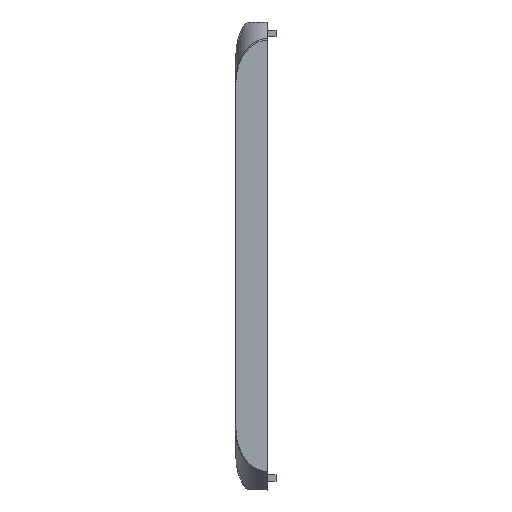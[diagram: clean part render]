
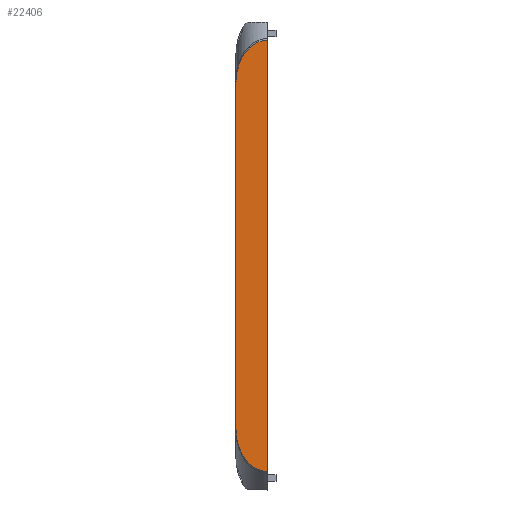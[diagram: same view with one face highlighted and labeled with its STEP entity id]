
A CAD part, top view. The second image highlights one B-rep face of the part: STEP entity #22406.
In plain terms, the highlighted planar face has unit normal (0, 0, 1).
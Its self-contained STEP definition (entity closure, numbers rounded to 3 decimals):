
#8779 = PLANE('',#8780);
#8780 = AXIS2_PLACEMENT_3D('',#8781,#8782,#8783);
#8781 = CARTESIAN_POINT('',(56.386,-51.939,
    30.754));
#8782 = DIRECTION('',(-1.,0.,0.));
#8783 = DIRECTION('',(0.,-1.,0.));
#16986 = VERTEX_POINT('',#16987);
#16987 = CARTESIAN_POINT('',(56.386,-145.156,40.018));
#17001 = CYLINDRICAL_SURFACE('',#17002,7.5);
#17002 = AXIS2_PLACEMENT_3D('',#17003,#17004,#17005);
#17003 = CARTESIAN_POINT('',(63.886,-152.346,
    31.758));
#17004 = DIRECTION('',(0.,-0.657,
    -0.754));
#17005 = DIRECTION('',(-0.707,-0.533,0.464));
#17013 = EDGE_CURVE('',#16986,#17014,#17016,.T.);
#17014 = VERTEX_POINT('',#17015);
#17015 = CARTESIAN_POINT('',(56.386,-62.723,40.018));
#17016 = SURFACE_CURVE('',#17017,(#17021,#17028),.PCURVE_S1.);
#17017 = LINE('',#17018,#17019);
#17018 = CARTESIAN_POINT('',(56.386,-52.141,40.018));
#17019 = VECTOR('',#17020,1.);
#17020 = DIRECTION('',(0.,1.,0.));
#17021 = PCURVE('',#8779,#17022);
#17022 = DEFINITIONAL_REPRESENTATION('',(#17023),#17027);
#17023 = LINE('',#17024,#17025);
#17024 = CARTESIAN_POINT('',(0.202,9.264));
#17025 = VECTOR('',#17026,1.);
#17026 = DIRECTION('',(-1.,0.));
#17027 = ( GEOMETRIC_REPRESENTATION_CONTEXT(2) 
PARAMETRIC_REPRESENTATION_CONTEXT() REPRESENTATION_CONTEXT('2D SPACE',''
  ) );
#17028 = PCURVE('',#17029,#17034);
#17029 = PLANE('',#17030);
#17030 = AXIS2_PLACEMENT_3D('',#17031,#17032,#17033);
#17031 = CARTESIAN_POINT('',(240.386,-52.344,40.018));
#17032 = DIRECTION('',(0.,0.,-1.));
#17033 = DIRECTION('',(0.,-1.,0.));
#17034 = DEFINITIONAL_REPRESENTATION('',(#17035),#17039);
#17035 = LINE('',#17036,#17037);
#17036 = CARTESIAN_POINT('',(-0.202,184.));
#17037 = VECTOR('',#17038,1.);
#17038 = DIRECTION('',(-1.,0.));
#17039 = ( GEOMETRIC_REPRESENTATION_CONTEXT(2) 
PARAMETRIC_REPRESENTATION_CONTEXT() REPRESENTATION_CONTEXT('2D SPACE',''
  ) );
#17057 = CYLINDRICAL_SURFACE('',#17058,7.5);
#17058 = AXIS2_PLACEMENT_3D('',#17059,#17060,#17061);
#17059 = CARTESIAN_POINT('',(63.886,-77.949,
    57.51));
#17060 = DIRECTION('',(0.,-0.657,
    0.754));
#17061 = DIRECTION('',(-0.707,0.533,0.464));
#18359 = PLANE('',#18360);
#18360 = AXIS2_PLACEMENT_3D('',#18361,#18362,#18363);
#18361 = CARTESIAN_POINT('',(63.886,-103.939,
    33.386));
#18362 = DIRECTION('',(1.,0.,0.));
#18363 = DIRECTION('',(0.,0.,-1.));
#19133 = VERTEX_POINT('',#19134);
#19134 = CARTESIAN_POINT('',(63.886,-155.099,40.018));
#19155 = EDGE_CURVE('',#19133,#16986,#19156,.T.);
#19156 = SURFACE_CURVE('',#19157,(#19162,#19191),.PCURVE_S1.);
#19157 = ELLIPSE('',#19158,9.944,7.5);
#19158 = AXIS2_PLACEMENT_3D('',#19159,#19160,#19161);
#19159 = CARTESIAN_POINT('',(63.886,-145.156,40.018));
#19160 = DIRECTION('',(0.,0.,-1.));
#19161 = DIRECTION('',(0.,-1.,0.));
#19162 = PCURVE('',#17001,#19163);
#19163 = DEFINITIONAL_REPRESENTATION('',(#19164),#19190);
#19164 = B_SPLINE_CURVE_WITH_KNOTS('',3,(#19165,#19166,#19167,#19168,
    #19169,#19170,#19171,#19172,#19173,#19174,#19175,#19176,#19177,
    #19178,#19179,#19180,#19181,#19182,#19183,#19184,#19185,#19186,
    #19187,#19188,#19189),.UNSPECIFIED.,.F.,.F.,(4,1,1,1,1,1,1,1,1,1,1,1
    ,1,1,1,1,1,1,1,1,1,1,4),(0.,0.071,0.143,
    0.214,0.286,0.357,0.428,
    0.5,0.571,0.643,0.714,
    0.785,0.857,0.928,1.,
    1.071,1.142,1.214,1.285,
    1.357,1.428,1.499,1.571),
  .QUASI_UNIFORM_KNOTS.);
#19165 = CARTESIAN_POINT('',(-0.785,-4.422));
#19166 = CARTESIAN_POINT('',(-0.762,-4.422));
#19167 = CARTESIAN_POINT('',(-0.714,-4.434));
#19168 = CARTESIAN_POINT('',(-0.643,-4.483));
#19169 = CARTESIAN_POINT('',(-0.571,-4.566));
#19170 = CARTESIAN_POINT('',(-0.5,-4.682));
#19171 = CARTESIAN_POINT('',(-0.428,-4.829));
#19172 = CARTESIAN_POINT('',(-0.357,-5.007));
#19173 = CARTESIAN_POINT('',(-0.286,-5.216));
#19174 = CARTESIAN_POINT('',(-0.214,-5.454));
#19175 = CARTESIAN_POINT('',(-0.143,-5.72));
#19176 = CARTESIAN_POINT('',(-0.071,-6.013));
#19177 = CARTESIAN_POINT('',(0.,-6.331));
#19178 = CARTESIAN_POINT('',(0.071,-6.672));
#19179 = CARTESIAN_POINT('',(0.143,-7.035));
#19180 = CARTESIAN_POINT('',(0.214,-7.418));
#19181 = CARTESIAN_POINT('',(0.286,-7.82));
#19182 = CARTESIAN_POINT('',(0.357,-8.237));
#19183 = CARTESIAN_POINT('',(0.428,-8.668));
#19184 = CARTESIAN_POINT('',(0.5,-9.11));
#19185 = CARTESIAN_POINT('',(0.571,-9.562));
#19186 = CARTESIAN_POINT('',(0.643,-10.021));
#19187 = CARTESIAN_POINT('',(0.714,-10.485));
#19188 = CARTESIAN_POINT('',(0.762,-10.796));
#19189 = CARTESIAN_POINT('',(0.785,-10.951));
#19190 = ( GEOMETRIC_REPRESENTATION_CONTEXT(2) 
PARAMETRIC_REPRESENTATION_CONTEXT() REPRESENTATION_CONTEXT('2D SPACE',''
  ) );
#19191 = PCURVE('',#17029,#19192);
#19192 = DEFINITIONAL_REPRESENTATION('',(#19193),#19197);
#19193 = ELLIPSE('',#19194,9.944,7.5);
#19194 = AXIS2_PLACEMENT_2D('',#19195,#19196);
#19195 = CARTESIAN_POINT('',(92.812,176.5));
#19196 = DIRECTION('',(1.,0.));
#19197 = ( GEOMETRIC_REPRESENTATION_CONTEXT(2) 
PARAMETRIC_REPRESENTATION_CONTEXT() REPRESENTATION_CONTEXT('2D SPACE',''
  ) );
#21415 = VERTEX_POINT('',#21416);
#21416 = CARTESIAN_POINT('',(63.886,-52.779,40.018));
#21437 = EDGE_CURVE('',#21415,#19133,#21438,.T.);
#21438 = SURFACE_CURVE('',#21439,(#21443,#21450),.PCURVE_S1.);
#21439 = LINE('',#21440,#21441);
#21440 = CARTESIAN_POINT('',(63.886,-78.141,40.018));
#21441 = VECTOR('',#21442,1.);
#21442 = DIRECTION('',(0.,-1.,0.));
#21443 = PCURVE('',#18359,#21444);
#21444 = DEFINITIONAL_REPRESENTATION('',(#21445),#21449);
#21445 = LINE('',#21446,#21447);
#21446 = CARTESIAN_POINT('',(-6.632,25.798));
#21447 = VECTOR('',#21448,1.);
#21448 = DIRECTION('',(0.,-1.));
#21449 = ( GEOMETRIC_REPRESENTATION_CONTEXT(2) 
PARAMETRIC_REPRESENTATION_CONTEXT() REPRESENTATION_CONTEXT('2D SPACE',''
  ) );
#21450 = PCURVE('',#17029,#21451);
#21451 = DEFINITIONAL_REPRESENTATION('',(#21452),#21456);
#21452 = LINE('',#21453,#21454);
#21453 = CARTESIAN_POINT('',(25.798,176.5));
#21454 = VECTOR('',#21455,1.);
#21455 = DIRECTION('',(1.,0.));
#21456 = ( GEOMETRIC_REPRESENTATION_CONTEXT(2) 
PARAMETRIC_REPRESENTATION_CONTEXT() REPRESENTATION_CONTEXT('2D SPACE',''
  ) );
#22406 = ADVANCED_FACE('',(#22407),#17029,.F.);
#22407 = FACE_BOUND('',#22408,.T.);
#22408 = EDGE_LOOP('',(#22409,#22410,#22454,#22455));
#22409 = ORIENTED_EDGE('',*,*,#21437,.F.);
#22410 = ORIENTED_EDGE('',*,*,#22411,.F.);
#22411 = EDGE_CURVE('',#17014,#21415,#22412,.T.);
#22412 = SURFACE_CURVE('',#22413,(#22418,#22425),.PCURVE_S1.);
#22413 = ELLIPSE('',#22414,9.944,7.5);
#22414 = AXIS2_PLACEMENT_3D('',#22415,#22416,#22417);
#22415 = CARTESIAN_POINT('',(63.886,-62.723,40.018));
#22416 = DIRECTION('',(0.,0.,-1.));
#22417 = DIRECTION('',(0.,1.,0.));
#22418 = PCURVE('',#17029,#22419);
#22419 = DEFINITIONAL_REPRESENTATION('',(#22420),#22424);
#22420 = ELLIPSE('',#22421,9.944,7.5);
#22421 = AXIS2_PLACEMENT_2D('',#22422,#22423);
#22422 = CARTESIAN_POINT('',(10.379,176.5));
#22423 = DIRECTION('',(-1.,0.));
#22424 = ( GEOMETRIC_REPRESENTATION_CONTEXT(2) 
PARAMETRIC_REPRESENTATION_CONTEXT() REPRESENTATION_CONTEXT('2D SPACE',''
  ) );
#22425 = PCURVE('',#17057,#22426);
#22426 = DEFINITIONAL_REPRESENTATION('',(#22427),#22453);
#22427 = B_SPLINE_CURVE_WITH_KNOTS('',3,(#22428,#22429,#22430,#22431,
    #22432,#22433,#22434,#22435,#22436,#22437,#22438,#22439,#22440,
    #22441,#22442,#22443,#22444,#22445,#22446,#22447,#22448,#22449,
    #22450,#22451,#22452),.UNSPECIFIED.,.F.,.F.,(4,1,1,1,1,1,1,1,1,1,1,1
    ,1,1,1,1,1,1,1,1,1,1,4),(4.712,4.784,
    4.855,4.927,4.998,5.069,
    5.141,5.212,5.284,5.355,
    5.426,5.498,5.569,5.641,
    5.712,5.783,5.855,5.926,
    5.998,6.069,6.14,6.212,
    6.283),.QUASI_UNIFORM_KNOTS.);
#22428 = CARTESIAN_POINT('',(7.069,-23.191));
#22429 = CARTESIAN_POINT('',(7.045,-23.346));
#22430 = CARTESIAN_POINT('',(6.997,-23.657));
#22431 = CARTESIAN_POINT('',(6.926,-24.121));
#22432 = CARTESIAN_POINT('',(6.854,-24.58));
#22433 = CARTESIAN_POINT('',(6.783,-25.032));
#22434 = CARTESIAN_POINT('',(6.712,-25.475));
#22435 = CARTESIAN_POINT('',(6.64,-25.905));
#22436 = CARTESIAN_POINT('',(6.569,-26.323));
#22437 = CARTESIAN_POINT('',(6.497,-26.724));
#22438 = CARTESIAN_POINT('',(6.426,-27.107));
#22439 = CARTESIAN_POINT('',(6.355,-27.47));
#22440 = CARTESIAN_POINT('',(6.283,-27.811));
#22441 = CARTESIAN_POINT('',(6.212,-28.129));
#22442 = CARTESIAN_POINT('',(6.14,-28.422));
#22443 = CARTESIAN_POINT('',(6.069,-28.688));
#22444 = CARTESIAN_POINT('',(5.998,-28.926));
#22445 = CARTESIAN_POINT('',(5.926,-29.135));
#22446 = CARTESIAN_POINT('',(5.855,-29.313));
#22447 = CARTESIAN_POINT('',(5.783,-29.461));
#22448 = CARTESIAN_POINT('',(5.712,-29.576));
#22449 = CARTESIAN_POINT('',(5.641,-29.659));
#22450 = CARTESIAN_POINT('',(5.569,-29.709));
#22451 = CARTESIAN_POINT('',(5.522,-29.72));
#22452 = CARTESIAN_POINT('',(5.498,-29.72));
#22453 = ( GEOMETRIC_REPRESENTATION_CONTEXT(2) 
PARAMETRIC_REPRESENTATION_CONTEXT() REPRESENTATION_CONTEXT('2D SPACE',''
  ) );
#22454 = ORIENTED_EDGE('',*,*,#17013,.F.);
#22455 = ORIENTED_EDGE('',*,*,#19155,.F.);
